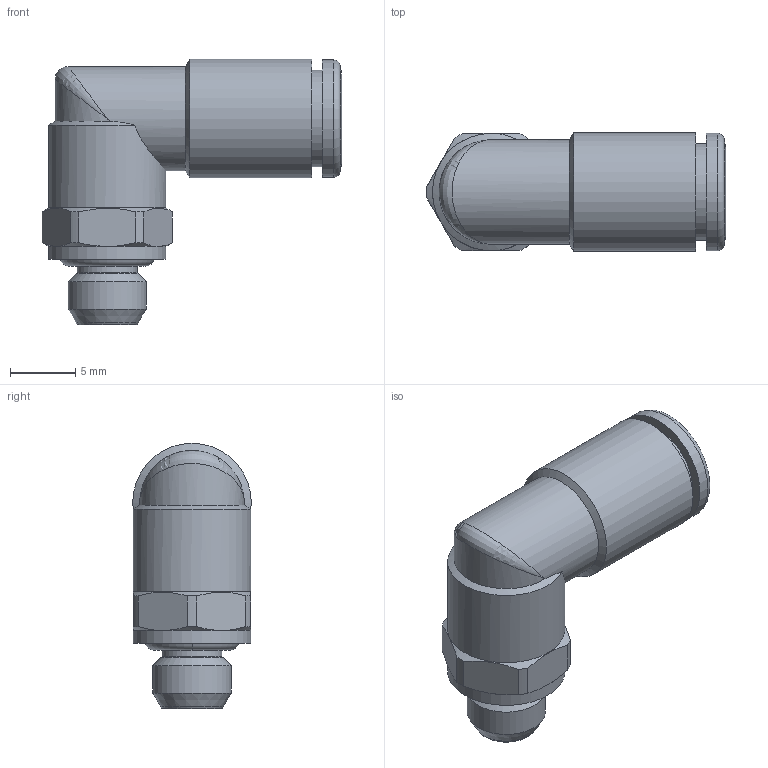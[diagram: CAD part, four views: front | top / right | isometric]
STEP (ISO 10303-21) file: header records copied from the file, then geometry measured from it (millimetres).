
FILE_DESCRIPTION(('Bauteilbeschreibung','HiCAD-Model','HiCAD-STEP-TRANSLATION','Bauteilbeschreibung'),'2;1');
FILE_NAME('B:/ABGLEICH/ZEICHNUNGEN/STEP FÜR INTERNET/STEP/IPSO 022/202219_IPSO_022_4_M6.STP','2012-02-03T08:25:18+00:00',('Konstrukteur'),('Konstrukteur Firma GmbH'),' HiCAD neXt 2008, Step 3.1.1401.2J ','HiCAD neXt 2008','confidential');
FILE_SCHEMA(('AUTOMOTIVE_DESIGN { 1 2 10303 214 0 1 1 1 }'));
Length unit declared in the file: millimetre
Products named in the file (7): A02219_IPSO_022_4_M6; OR 4X1_5; A14600_N2; A146000N2; DIN 13_M6; DR4_1_NEU; R202200_N2
Assembly tree (6 placements, depth 3):
  A02219_IPSO_022_4_M6
    OR 4X1_5
    A14600_N2
    A146000N2
      DIN 13_M6
    DR4_1_NEU
    R202200_N2
Bounding box: 23 x 9.1 x 20.35 mm (x, y, z)
Volume: 1306.2 mm3; surface area: 2336.9 mm2
Topology: 5 solids, 5 shells, 84 faces, 192 edges, 117 vertices
Faces by surface type: cylinder 30, cone 27, plane 19, torus 7, bspline 1
Full cylindrical faces by diameter (mm): 3 x1, 4.1 x2, 4.6 x1, 4.773 x2, 6 x2, 6.4 x1, 6.8 x2, 7.3 x1, 7.4 x1, 7.6 x1, 7.85 x1, 7.9 x1, 8 x1, 9 x3, 9.1 x1
Entity records: 3823 total; most frequent: CARTESIAN_POINT 1462, DIRECTION 376, ORIENTED_EDGE 264, AXIS2_PLACEMENT_3D 181, EDGE_LOOP 138, EDGE_CURVE 132, COLOUR_RGB 117, PRESENTATION_STYLE_ASSIGNMENT 117
